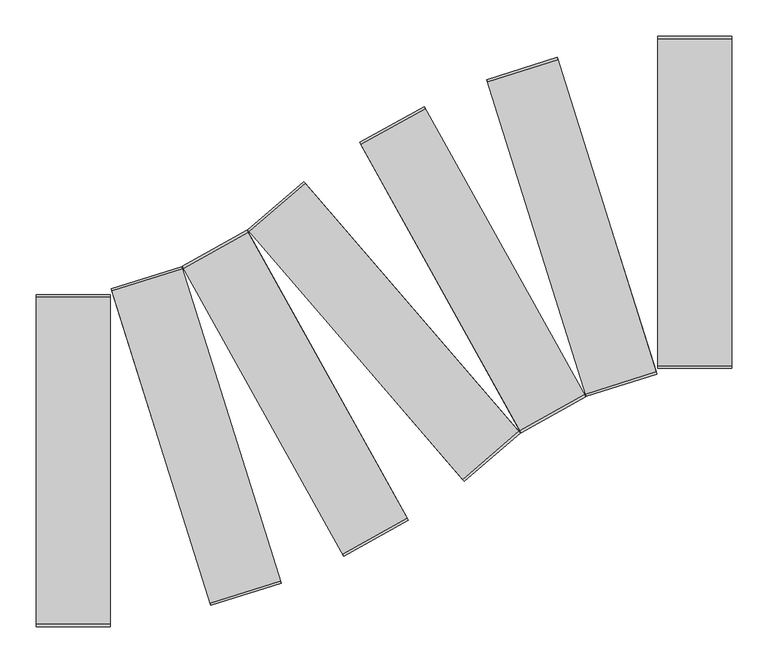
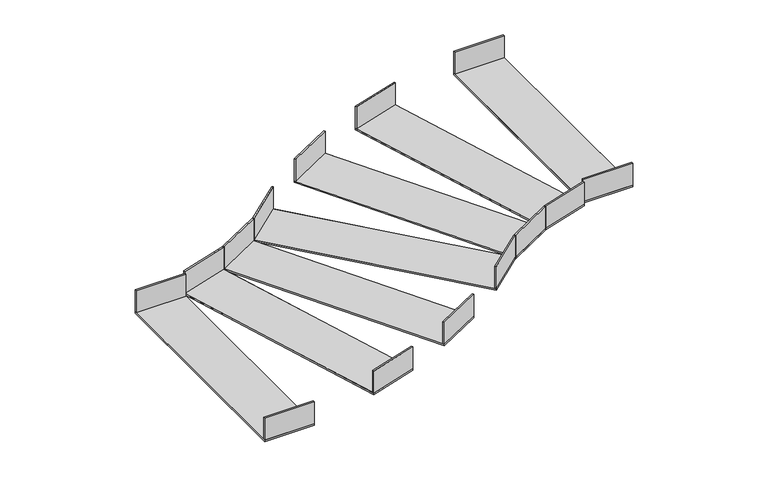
"""IFC4 building model written with IfcOpenShell, lengths in millimetres: cable carrier fitting geometry, Offset-Horizontal-Cablofil-Wire_Mesh_Cable_Tray-Cablobend : Cablobend."""

import ifcopenshell
import ifcopenshell.guid

model = None  # the IFC model being written
_history = None  # IfcOwnerHistory: only IFC2X3 demands one
_inside = {}  # id of a spatial element -> (the spatial element, [elements in it])
_under = {}  # id of a project, library or spatial element -> (it, [spatial elements below it])
_declared = {}  # id of a project -> (the project, [libraries it declares])
_typed = {}  # id of a type object -> (the type object, [elements of that type])
_made_of = {}  # id of a material, layer set ... -> (it, [elements and type objects made of it])


def new_model(schema):
    """Start an empty IFC model of exactly this schema.

    Asked for "IFC4X3", IfcOpenShell would pick the latest addendum, in which some entities
    have other attributes; the version numbers below select the first issue.
    IFC2X3 requires an IfcOwnerHistory on every rooted entity: one is made here for all.
    """
    global model, _history
    if schema == "IFC4X3":
        model = ifcopenshell.file(schema_version=(4, 3, 0, 0))
    else:
        model = ifcopenshell.file(schema=schema)
    _inside.clear()
    _under.clear()
    _declared.clear()
    _typed.clear()
    _made_of.clear()
    _history = None
    if model.schema == "IFC2X3":
        org = make("IfcOrganization", Name="unknown")
        user = make(
            "IfcPersonAndOrganization",
            ThePerson=make("IfcPerson", FamilyName="unknown"),
            TheOrganization=org,
        )
        app = make(
            "IfcApplication",
            ApplicationDeveloper=org,
            Version="unknown",
            ApplicationFullName="unknown",
            ApplicationIdentifier="unknown",
        )
        _history = make(
            "IfcOwnerHistory",
            OwningUser=user,
            OwningApplication=app,
            ChangeAction="ADDED",
            CreationDate=0,
        )
    return model


def make(cls, **values):
    """One entity of the class cls with the attributes given. An attribute that is None is left unset."""
    return model.create_entity(
        cls, **{name: value for name, value in values.items() if value is not None}
    )


def rooted(cls, **values):
    """An entity with a GlobalId (a new one), such as an element, a storey or a relation."""
    return make(cls, GlobalId=ifcopenshell.guid.new(), OwnerHistory=_history, **values)


def si_unit(unit_type, name, prefix=None):
    """IfcSIUnit, for example si_unit("LENGTHUNIT", "METRE", prefix="MILLI")."""
    return make("IfcSIUnit", UnitType=unit_type, Prefix=prefix, Name=name)


def assignment(units):
    """IfcUnitAssignment: the units of a project."""
    return None if units is None else make("IfcUnitAssignment", Units=units)


def point(xyz):
    """IfcCartesianPoint."""
    return None if xyz is None else make("IfcCartesianPoint", Coordinates=xyz)


def direction(xyz):
    """IfcDirection."""
    return None if xyz is None else make("IfcDirection", DirectionRatios=xyz)


def frame(location, z_axis=None, x_axis=None):
    """IfcAxis2Placement3D, a coordinate frame: its origin and axes. An axis left out is left unset."""
    return make(
        "IfcAxis2Placement3D",
        Location=point(location),
        Axis=direction(z_axis),
        RefDirection=direction(x_axis),
    )


def origin():
    """The frame at (0, 0, 0) with its axes left unset."""
    return frame((0.0, 0.0, 0.0))


def place(relative_to, where):
    """IfcLocalPlacement: puts the frame where relative to a parent placement (None: the world)."""
    return make(
        "IfcLocalPlacement", PlacementRelTo=relative_to, RelativePlacement=where
    )


def context(
    kind, dimensions, precision=None, world=None, true_north=None, identifier=None
):
    """IfcGeometricRepresentationContext, for example the 3D "Model" context."""
    return make(
        "IfcGeometricRepresentationContext",
        ContextIdentifier=identifier,
        ContextType=kind,
        CoordinateSpaceDimension=dimensions,
        Precision=precision,
        WorldCoordinateSystem=world,
        TrueNorth=true_north,
    )


def project(units=None, contexts=None):
    """IfcProject with its units and contexts."""
    return rooted(
        "IfcProject",
        Name="project",
        RepresentationContexts=contexts,
        UnitsInContext=assignment(units),
    )


def spatial(cls, under=None, at=None, **own):
    """A site, building, storey or space (cls), placed at a placement, below another one or the project."""
    s = rooted(cls, ObjectPlacement=at, **own)
    if under is not None:
        _under.setdefault(under.id(), (under, []))[1].append(s)
    return s


def polyline(points):
    """IfcPolyline through the points."""
    return make("IfcPolyline", Points=[point(p) for p in points])


def outline(outer, holes=None, kind="AREA"):
    """IfcArbitraryClosedProfileDef: a profile drawn as a closed curve; with holes, ...WithVoids."""
    if holes is None:
        return make("IfcArbitraryClosedProfileDef", ProfileType=kind, OuterCurve=outer)
    return make(
        "IfcArbitraryProfileDefWithVoids",
        ProfileType=kind,
        OuterCurve=outer,
        InnerCurves=holes,
    )


def extrude(swept, where, along, depth):
    """IfcExtrudedAreaSolid: the profile swept, set in the frame where, extruded along a direction by depth."""
    return make(
        "IfcExtrudedAreaSolid",
        SweptArea=swept,
        Position=where,
        ExtrudedDirection=direction(along),
        Depth=depth,
    )


def shape(context_of_items, identifier, shape_type, items):
    """IfcShapeRepresentation: the items that make up one representation, for example the "Body"."""
    return make(
        "IfcShapeRepresentation",
        ContextOfItems=context_of_items,
        RepresentationIdentifier=identifier,
        RepresentationType=shape_type,
        Items=items,
    )


def source(mapping_origin, context_of_items, identifier, shape_type, items):
    """IfcRepresentationMap: a shape defined once, which mapped items show again and again."""
    return make(
        "IfcRepresentationMap",
        MappingOrigin=mapping_origin,
        MappedRepresentation=shape(context_of_items, identifier, shape_type, items),
    )


def transform(
    local_origin,
    x_axis=None,
    y_axis=None,
    z_axis=None,
    scale=None,
    scale2=None,
    scale3=None,
    uniform=True,
):
    """IfcCartesianTransformationOperator3D, or its non-uniform kind. x_axis, y_axis, z_axis: its Axis1, 2, 3."""
    if uniform:
        return make(
            "IfcCartesianTransformationOperator3D",
            Axis1=direction(x_axis),
            Axis2=direction(y_axis),
            LocalOrigin=point(local_origin),
            Scale=scale,
            Axis3=direction(z_axis),
        )
    return make(
        "IfcCartesianTransformationOperator3DnonUniform",
        Axis1=direction(x_axis),
        Axis2=direction(y_axis),
        LocalOrigin=point(local_origin),
        Scale=scale,
        Axis3=direction(z_axis),
        Scale2=scale2,
        Scale3=scale3,
    )


def mapped(mapping_source, mapping_target):
    """IfcMappedItem: shows the shape of a source again, moved by a transform."""
    return make(
        "IfcMappedItem", MappingSource=mapping_source, MappingTarget=mapping_target
    )


def made_of(thing, what):
    """Note that an element or type object is made of a material, layer set ...; save() writes the relation."""
    if what is not None:
        _made_of.setdefault(what.id(), (what, []))[1].append(thing)
    return thing


def element(
    cls,
    number,
    at=None,
    inside=None,
    cuts=None,
    type_object=None,
    material=None,
    context=None,
    identifier="Body",
    shape_type=None,
    held_by="IfcProductDefinitionShape",
    body=None,
    shapes=None,
    **own,
):
    """One element of the class cls, such as IfcWall. Its Tag is "e" and its number.

    at: its placement. inside: the storey or other place that contains it. cuts: it is an
    opening in that element (IfcRelVoidsElement). A single representation is given by context,
    identifier, shape_type and body (its items); several are given by shapes. held_by: the class
    of the entity that holds the representations. save() writes the other relations.
    """
    e = rooted(cls, Tag="e%d" % number, ObjectPlacement=at, **own)
    if body is not None:
        shapes = [shape(context, identifier, shape_type, body)]
    if shapes is not None:
        e.Representation = make(held_by, Representations=shapes)
    if inside is not None:
        _inside.setdefault(inside.id(), (inside, []))[1].append(e)
    if cuts is not None:
        rooted(
            "IfcRelVoidsElement", RelatingBuildingElement=cuts, RelatedOpeningElement=e
        )
    if type_object is not None:
        _typed.setdefault(type_object.id(), (type_object, []))[1].append(e)
    return made_of(e, material)


def aggregate(whole, parts):
    """IfcRelAggregates: a whole, such as a stair, and the parts it consists of."""
    return rooted("IfcRelAggregates", RelatingObject=whole, RelatedObjects=parts)


def save(model, path):
    """Write the relations noted so far, then the file.

    IfcRelAggregates (storeys below a building ...), IfcRelContainedInSpatialStructure (elements
    in a storey), IfcRelDefinesByType, IfcRelAssociatesMaterial and IfcRelDeclares: one each for
    every whole, place, type object, material and project.
    """
    for whole, parts in _under.values():
        aggregate(whole, parts)
    for where, things in _inside.values():
        rooted(
            "IfcRelContainedInSpatialStructure",
            RelatedElements=things,
            RelatingStructure=where,
        )
    for kind, things in _typed.values():
        rooted("IfcRelDefinesByType", RelatedObjects=things, RelatingType=kind)
    for what, things in _made_of.values():
        rooted("IfcRelAssociatesMaterial", RelatedObjects=things, RelatingMaterial=what)
    for by, libraries in _declared.values():
        rooted("IfcRelDeclares", RelatingContext=by, RelatedDefinitions=libraries)
    model.write(path)


def cable_carrier_fitting_0f341e1d(model_context):
    return source(origin(), model_context, "Body", "SweptSolid", [
        extrude(outline(polyline([(66.300144, -131.8272941), (-156.0784813, 267.646844), (-67.3064506, 317.0643163), (155.0721747, -82.4098218), (66.300144, -131.8272941)])), frame((0.0, 0.0, -25.4), z_axis=(0.0, 0.0, 1.0), x_axis=(1.0, 0.0, 0.0)), (0.0, 0.0, 1.0), 3.175),
        extrude(outline(polyline([(-50.8, 0.0), (0.0, 0.0), (0.0, -457.2), (-50.8, -457.2), (-50.8, -454.0250001), (-3.175, -454.0250001), (-3.175, -3.175), (-50.8, -3.175), (-50.8, 0.0)])), frame((-156.0784813, 267.646844, -25.4), z_axis=(0.873740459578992, 0.4863924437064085, 0.0), x_axis=(0.0, 0.0, -1.0)), (0.0, 0.0, 1.0), 101.6),
        extrude(outline(polyline([(498.6804907, 127.0), (498.6804907, 584.2), (600.2804907, 584.2), (600.2804907, 127.0), (498.6804907, 127.0)])), frame((0.0, 0.0, -25.4), z_axis=(0.0, 0.0, 1.0), x_axis=(1.0, 0.0, 0.0)), (0.0, 0.0, 1.0), 3.175),
        extrude(outline(polyline([(584.2, 25.4), (584.2, -25.4), (127.0, -25.4), (127.0, 25.4), (130.175, 25.4), (130.175, -22.225), (581.025, -22.225), (581.025, 25.4), (584.2, 25.4)])), frame((498.6804907, 0.0, 0.0), z_axis=(1.0, 0.0, 0.0), x_axis=(0.0, 1.0, 0.0)), (0.0, 0.0, 1.0), 101.6),
        extrude(outline(polyline([(400.2956277, 88.4850978), (263.1002928, 524.6149868), (360.0180459, 555.102839), (497.2133808, 118.97295), (400.2956277, 88.4850978)])), frame((0.0, 0.0, -25.4), z_axis=(0.0, 0.0, 1.0), x_axis=(1.0, 0.0, 0.0)), (0.0, 0.0, 1.0), 3.175),
        extrude(outline(polyline([(-50.8, 0.0), (0.0, 0.0), (0.0, -457.2), (-50.8, -457.2), (-50.8, -454.025), (-3.175, -454.025), (-3.175, -3.1749999), (-50.8, -3.1749999), (-50.8, 0.0)])), frame((263.1002928, 524.6149868, -25.4), z_axis=(0.9539148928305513, 0.3000772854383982, 0.0), x_axis=(0.0, 0.0, -1.0)), (0.0, 0.0, 1.0), 101.6),
        extrude(outline(polyline([(310.287432, 38.5356837), (87.9088067, 438.0098218), (176.6808374, 487.4272941), (399.0594627, 87.953156), (310.287432, 38.5356837)])), frame((0.0, 0.0, -25.4), z_axis=(0.0, 0.0, 1.0), x_axis=(1.0, 0.0, 0.0)), (0.0, 0.0, 1.0), 3.175),
        extrude(outline(polyline([(-50.8, 0.0), (0.0, 0.0), (0.0, -457.2), (-50.8, -457.2), (-50.8, -454.025), (-3.175, -454.025), (-3.175, -3.1749999), (-50.8, -3.1749999), (-50.8, 0.0)])), frame((87.9088067, 438.0098218, -25.4), z_axis=(0.8737404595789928, 0.48639244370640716, 0.0), x_axis=(0.0, 0.0, -1.0)), (0.0, 0.0, 1.0), 101.6),
        extrude(outline(polyline([(232.2099214, -28.5487525), (-66.2030534, 317.8347581), (10.7710601, 384.1487525), (309.1840349, 37.7652419), (232.2099214, -28.5487525)])), frame((0.0, 0.0, -25.4), z_axis=(0.0, 0.0, 1.0), x_axis=(1.0, 0.0, 0.0)), (0.0, 0.0, 1.0), 3.175),
        extrude(outline(polyline([(-50.8, 0.0), (0.0, 0.0), (0.0, -457.1999999), (-50.8, -457.1999999), (-50.8, -454.0249999), (-3.175, -454.0249999), (-3.175, -3.1749999), (-50.8, -3.1749999), (-50.8, 0.0)])), frame((-66.2030534, 317.8347581, -25.4), z_axis=(0.7576192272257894, 0.6526967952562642, 0.0), x_axis=(0.0, 0.0, -1.0)), (0.0, 0.0, 1.0), 101.6),
        extrude(outline(polyline([(-117.0370644, -199.502839), (-254.2323993, 236.62705), (-157.3146462, 267.1149022), (-20.1193113, -169.0149868), (-117.0370644, -199.502839)])), frame((0.0, 0.0, -25.4), z_axis=(0.0, 0.0, 1.0), x_axis=(1.0, 0.0, 0.0)), (0.0, 0.0, 1.0), 3.175),
        extrude(outline(polyline([(-50.8, 0.0), (0.0, 0.0), (0.0, -457.2), (-50.8, -457.2), (-50.8, -454.0250001), (-3.175, -454.0250001), (-3.175, -3.175), (-50.8, -3.175), (-50.8, 0.0)])), frame((-254.2323993, 236.62705, -25.4), z_axis=(0.9539148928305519, 0.3000772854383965, 0.0), x_axis=(0.0, 0.0, -1.0)), (0.0, 0.0, 1.0), 101.6),
        extrude(outline(polyline([(-357.2995093, -228.6), (-357.2995093, 228.6), (-255.6995093, 228.6), (-255.6995093, -228.6), (-357.2995093, -228.6)])), frame((0.0, 0.0, -25.4), z_axis=(0.0, 0.0, 1.0), x_axis=(1.0, 0.0, 0.0)), (0.0, 0.0, 1.0), 3.175),
        extrude(outline(polyline([(228.6, 25.4), (228.6, -25.4), (-228.6, -25.4), (-228.6, 25.4), (-225.425, 25.4), (-225.425, -22.225), (225.425, -22.225), (225.425, 25.4), (228.6, 25.4)])), frame((-357.2995093, 0.0, 0.0), z_axis=(1.0, 0.0, 0.0), x_axis=(0.0, 1.0, 0.0)), (0.0, 0.0, 1.0), 101.6),
    ])


if __name__ == "__main__":
    model = new_model("IFC4")
    model_context = context("Model", 3, world=origin())
    ifc_project = project(units=[si_unit("LENGTHUNIT", "METRE", prefix="MILLI")], contexts=[model_context])
    site = spatial("IfcSite", under=ifc_project)
    building = spatial("IfcBuilding", under=site)
    placement = place(None, origin())
    cable_carrier_fitting_shape = cable_carrier_fitting_0f341e1d(model_context)
    element("IfcCableCarrierFitting", 1, ObjectType="Offset-Horizontal-Cablofil-Wire_Mesh_Cable_Tray-Cablobend : Cablobend", at=placement, inside=building, context=model_context, shape_type="MappedRepresentation", body=[
        mapped(cable_carrier_fitting_shape, transform((0.0, 0.0, 0.0), x_axis=(1.0, 0.0, 0.0), y_axis=(0.0, 1.0, 0.0), z_axis=(0.0, 0.0, 1.0))),
    ])
    save(model, "model.ifc")
